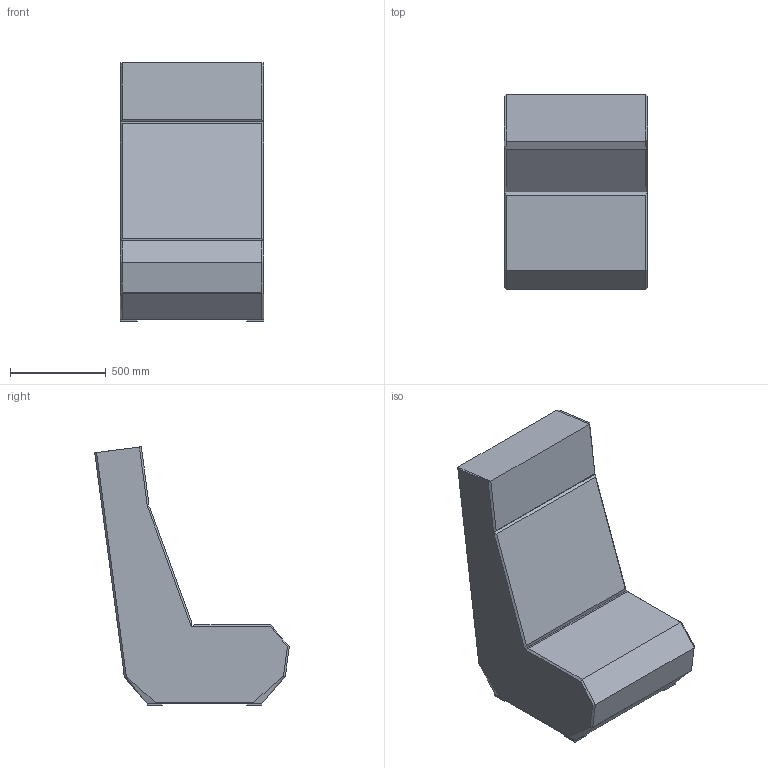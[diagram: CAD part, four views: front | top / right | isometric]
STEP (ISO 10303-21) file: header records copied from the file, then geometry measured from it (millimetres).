
FILE_DESCRIPTION(/* description */ (''),/* implementation_level */ '2;1');
FILE_NAME(/* name */ 'KM',/* time_stamp */ '2015-10-05T16:20:18+02:00',/* author */ (''),/* organization */ (''),/* preprocessor_version */ 'ST-DEVELOPER v15',/* originating_system */ '',/* authorisation */ '');
FILE_SCHEMA (('CONFIG_CONTROL_DESIGN'));
Length unit declared in the file: millimetre
Products named in the file (1): Document
Bounding box: 750 x 1017.73 x 1352.16 mm (x, y, z)
Volume: 479717572.6 mm3; surface area: 4541670.7 mm2
Topology: 5 solids, 5 shells, 87 faces, 212 edges, 120 vertices
Faces by surface type: bspline 71, plane 16
Entity records: 3279 total; most frequent: CARTESIAN_POINT 2119, ORIENTED_EDGE 386, EDGE_CURVE 193, VERTEX_POINT 116, ADVANCED_FACE 87, FACE_OUTER_BOUND 87, EDGE_LOOP 87, B_SPLINE_CURVE_WITH_KNOTS 36
